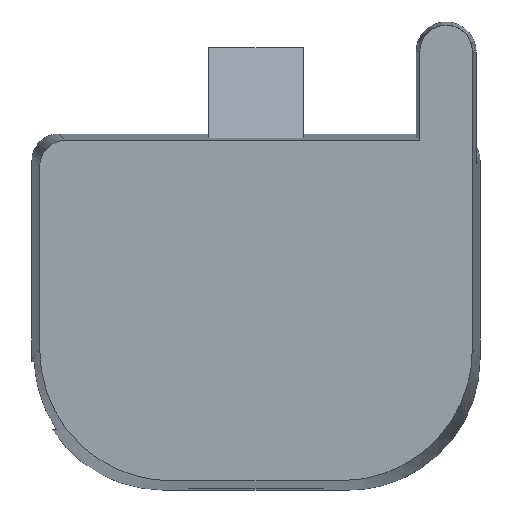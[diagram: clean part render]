
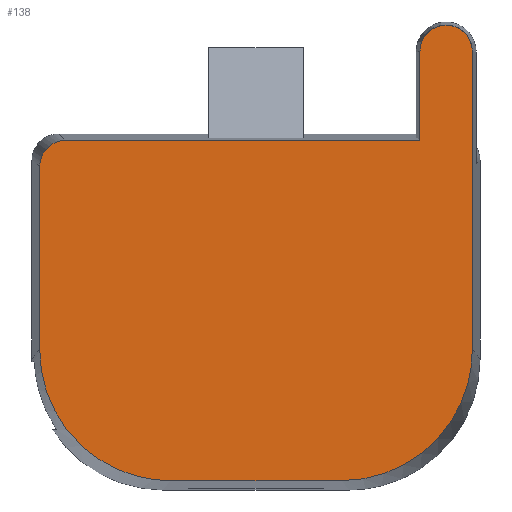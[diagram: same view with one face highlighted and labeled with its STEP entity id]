
A CAD part, top view. The second image highlights one B-rep face of the part: STEP entity #138.
In plain terms, the highlighted planar face has unit normal (0, 0, 1).
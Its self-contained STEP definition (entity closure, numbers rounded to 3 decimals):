
#123=CIRCLE('',#604,0.5);
#125=ELLIPSE('',#601,0.5,0.5);
#126=ELLIPSE('',#602,2.5,2.5);
#127=ELLIPSE('',#603,2.5,2.5);
#138=ADVANCED_FACE('',(#185),#164,.T.);
#164=PLANE('',#605);
#185=FACE_OUTER_BOUND('',#208,.T.);
#208=EDGE_LOOP('',(#240,#241,#242,#243,#244,#245,#246,#247,#248));
#240=ORIENTED_EDGE('',*,*,#424,.T.);
#241=ORIENTED_EDGE('',*,*,#425,.T.);
#242=ORIENTED_EDGE('',*,*,#426,.T.);
#243=ORIENTED_EDGE('',*,*,#427,.T.);
#244=ORIENTED_EDGE('',*,*,#428,.T.);
#245=ORIENTED_EDGE('',*,*,#429,.T.);
#246=ORIENTED_EDGE('',*,*,#430,.F.);
#247=ORIENTED_EDGE('',*,*,#431,.T.);
#248=ORIENTED_EDGE('',*,*,#432,.T.);
#378=VERTEX_POINT('',#788);
#379=VERTEX_POINT('',#789);
#380=VERTEX_POINT('',#791);
#381=VERTEX_POINT('',#793);
#382=VERTEX_POINT('',#795);
#383=VERTEX_POINT('',#797);
#384=VERTEX_POINT('',#799);
#385=VERTEX_POINT('',#801);
#386=VERTEX_POINT('',#803);
#424=EDGE_CURVE('',#378,#379,#493,.T.);
#425=EDGE_CURVE('',#379,#380,#125,.T.);
#426=EDGE_CURVE('',#380,#381,#494,.T.);
#427=EDGE_CURVE('',#381,#382,#126,.T.);
#428=EDGE_CURVE('',#382,#383,#495,.T.);
#429=EDGE_CURVE('',#383,#384,#127,.T.);
#430=EDGE_CURVE('',#385,#384,#496,.T.);
#431=EDGE_CURVE('',#385,#386,#123,.T.);
#432=EDGE_CURVE('',#386,#378,#497,.T.);
#493=LINE('',#787,#548);
#494=LINE('',#792,#549);
#495=LINE('',#796,#550);
#496=LINE('',#800,#551);
#497=LINE('',#804,#552);
#548=VECTOR('',#648,1.);
#549=VECTOR('',#651,1.);
#550=VECTOR('',#654,1.);
#551=VECTOR('',#657,1.);
#552=VECTOR('',#660,1.);
#601=AXIS2_PLACEMENT_3D('',#790,#649,#650);
#602=AXIS2_PLACEMENT_3D('',#794,#652,#653);
#603=AXIS2_PLACEMENT_3D('',#798,#655,#656);
#604=AXIS2_PLACEMENT_3D('',#802,#658,#659);
#605=AXIS2_PLACEMENT_3D('',#805,#661,#662);
#648=DIRECTION('',(-1.,0.,0.));
#649=DIRECTION('',(0.,0.,1.));
#650=DIRECTION('',(-0.707,0.707,0.));
#651=DIRECTION('',(0.,-1.,0.));
#652=DIRECTION('',(0.,0.,1.));
#653=DIRECTION('',(0.707,0.707,0.));
#654=DIRECTION('',(1.,0.,0.));
#655=DIRECTION('',(0.,0.,1.));
#656=DIRECTION('',(0.707,-0.707,0.));
#657=DIRECTION('',(0.,-1.,0.));
#658=DIRECTION('',(0.,0.,1.));
#659=DIRECTION('',(0.,1.,0.));
#660=DIRECTION('',(0.,-1.,0.));
#661=DIRECTION('',(0.,0.,1.));
#662=DIRECTION('',(0.,1.,0.));
#787=CARTESIAN_POINT('',(0.,3.25,9.1));
#788=CARTESIAN_POINT('',(3.13,3.25,9.1));
#789=CARTESIAN_POINT('',(-3.63,3.25,9.1));
#790=CARTESIAN_POINT('',(-3.63,2.75,9.1));
#791=CARTESIAN_POINT('',(-4.13,2.75,9.1));
#792=CARTESIAN_POINT('',(-4.13,3.25,9.1));
#793=CARTESIAN_POINT('',(-4.13,-0.75,9.1));
#794=CARTESIAN_POINT('',(-1.63,-0.75,9.1));
#795=CARTESIAN_POINT('',(-1.63,-3.25,9.1));
#796=CARTESIAN_POINT('',(0.,-3.25,9.1));
#797=CARTESIAN_POINT('',(1.63,-3.25,9.1));
#798=CARTESIAN_POINT('',(1.63,-0.75,9.1));
#799=CARTESIAN_POINT('',(4.13,-0.75,9.1));
#800=CARTESIAN_POINT('',(4.13,0.,9.1));
#801=CARTESIAN_POINT('',(4.13,4.95,9.1));
#802=CARTESIAN_POINT('',(3.63,4.95,9.1));
#803=CARTESIAN_POINT('',(3.13,4.95,9.1));
#804=CARTESIAN_POINT('',(3.13,4.95,9.1));
#805=CARTESIAN_POINT('',(0.,3.25,9.1));
